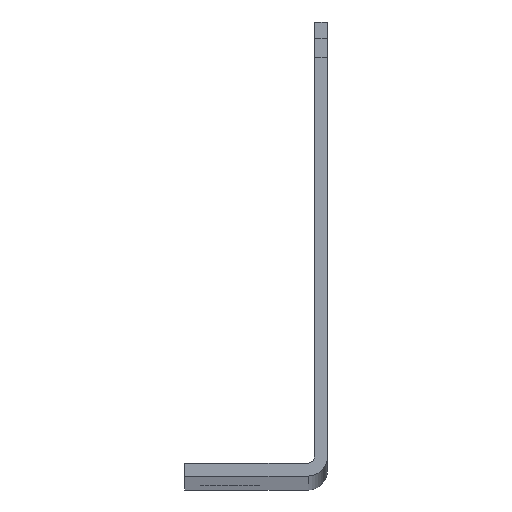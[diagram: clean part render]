
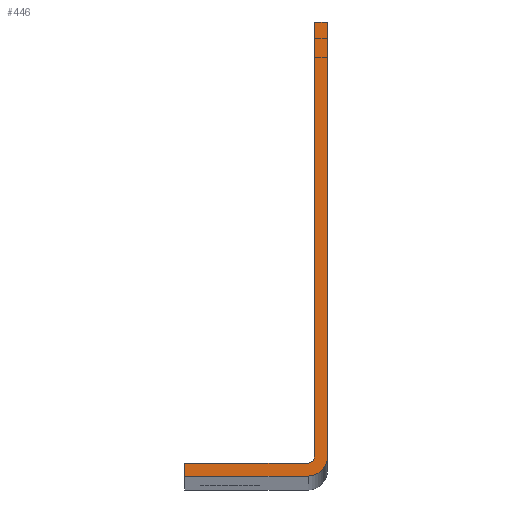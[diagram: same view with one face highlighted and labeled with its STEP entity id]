
A CAD part, top view. The second image highlights one B-rep face of the part: STEP entity #446.
In plain terms, the highlighted planar face has unit normal (0, 0, 1).
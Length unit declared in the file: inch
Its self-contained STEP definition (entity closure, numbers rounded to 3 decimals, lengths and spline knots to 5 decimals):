
#446 = ADVANCED_FACE( '', ( #1271 ), #1272, .T. );
#1271 = FACE_OUTER_BOUND( '', #2538, .T. );
#1272 = PLANE( '', #2539 );
#2538 = EDGE_LOOP( '', ( #4209, #4210, #4211, #4212, #4213, #4214, #4215, #4216 ) );
#2539 = AXIS2_PLACEMENT_3D( '', #4217, #4218, #4219 );
#4209 = ORIENTED_EDGE( '', *, *, #5905, .F. );
#4210 = ORIENTED_EDGE( '', *, *, #5943, .F. );
#4211 = ORIENTED_EDGE( '', *, *, #6315, .F. );
#4212 = ORIENTED_EDGE( '', *, *, #6303, .T. );
#4213 = ORIENTED_EDGE( '', *, *, #6120, .T. );
#4214 = ORIENTED_EDGE( '', *, *, #5869, .T. );
#4215 = ORIENTED_EDGE( '', *, *, #6222, .T. );
#4216 = ORIENTED_EDGE( '', *, *, #6316, .T. );
#4217 = CARTESIAN_POINT( '', ( 0.6875, 0.125, 38.5 ) );
#4218 = DIRECTION( '', ( 0., 0., 1. ) );
#4219 = DIRECTION( '', ( 1., 0., 0. ) );
#5869 = EDGE_CURVE( '', #6861, #6859, #6862, .F. );
#5905 = EDGE_CURVE( '', #6924, #6926, #6927, .T. );
#5943 = EDGE_CURVE( '', #6991, #6924, #6993, .T. );
#6120 = EDGE_CURVE( '', #7336, #6861, #7337, .T. );
#6222 = EDGE_CURVE( '', #6859, #7509, #7511, .T. );
#6303 = EDGE_CURVE( '', #7627, #7336, #7628, .T. );
#6315 = EDGE_CURVE( '', #7627, #6991, #7643, .T. );
#6316 = EDGE_CURVE( '', #7509, #6926, #7644, .T. );
#6859 = VERTEX_POINT( '', #8362 );
#6861 = VERTEX_POINT( '', #8365 );
#6862 = CIRCLE( '', #8366, 0.06 );
#6924 = VERTEX_POINT( '', #8440 );
#6926 = VERTEX_POINT( '', #8443 );
#6927 = LINE( '', #8444, #8445 );
#6991 = VERTEX_POINT( '', #8530 );
#6993 = CIRCLE( '', #8533, 0.185 );
#7336 = VERTEX_POINT( '', #8904 );
#7337 = LINE( '', #8905, #8906 );
#7509 = VERTEX_POINT( '', #9126 );
#7511 = LINE( '', #9129, #9130 );
#7627 = VERTEX_POINT( '', #9276 );
#7628 = LINE( '', #9277, #9278 );
#7643 = LINE( '', #9299, #9300 );
#7644 = LINE( '', #9301, #9302 );
#8362 = CARTESIAN_POINT( '', ( 0.5025, 0.125, 38.5 ) );
#8365 = CARTESIAN_POINT( '', ( 0.5625, 0.185, 38.5 ) );
#8366 = AXIS2_PLACEMENT_3D( '', #10074, #10075, #10076 );
#8440 = CARTESIAN_POINT( '', ( 0.5025, 0., 38.5 ) );
#8443 = CARTESIAN_POINT( '', ( -0.6875, 0., 38.5 ) );
#8444 = CARTESIAN_POINT( '', ( 0.6875, 0., 38.5 ) );
#8445 = VECTOR( '', #10141, 39.37008 );
#8530 = CARTESIAN_POINT( '', ( 0.6875, 0.185, 38.5 ) );
#8533 = AXIS2_PLACEMENT_3D( '', #10185, #10186, #10187 );
#8904 = CARTESIAN_POINT( '', ( 0.5625, 4.371, 38.5 ) );
#8905 = CARTESIAN_POINT( '', ( 0.5625, 0.11049, 38.5 ) );
#8906 = VECTOR( '', #10654, 39.37008 );
#9126 = CARTESIAN_POINT( '', ( -0.6875, 0.125, 38.5 ) );
#9129 = CARTESIAN_POINT( '', ( 0.6875, 0.125, 38.5 ) );
#9130 = VECTOR( '', #10821, 39.37008 );
#9276 = CARTESIAN_POINT( '', ( 0.6875, 4.371, 38.5 ) );
#9277 = CARTESIAN_POINT( '', ( 0.6875, 4.371, 38.5 ) );
#9278 = VECTOR( '', #10918, 39.37008 );
#9299 = CARTESIAN_POINT( '', ( 0.6875, 0.11049, 38.5 ) );
#9300 = VECTOR( '', #10928, 39.37008 );
#9301 = CARTESIAN_POINT( '', ( -0.6875, 0.125, 38.5 ) );
#9302 = VECTOR( '', #10929, 39.37008 );
#10074 = CARTESIAN_POINT( '', ( 0.5025, 0.185, 38.5 ) );
#10075 = DIRECTION( '', ( 0., 0., 1. ) );
#10076 = DIRECTION( '', ( 1., 0., 0. ) );
#10141 = DIRECTION( '', ( -1., 0., 0. ) );
#10185 = CARTESIAN_POINT( '', ( 0.5025, 0.185, 38.5 ) );
#10186 = DIRECTION( '', ( 0., 0., -1. ) );
#10187 = DIRECTION( '', ( 0., 1., 0. ) );
#10654 = DIRECTION( '', ( 0., -1., 0. ) );
#10821 = DIRECTION( '', ( -1., 0., 0. ) );
#10918 = DIRECTION( '', ( -1., 0., 0. ) );
#10928 = DIRECTION( '', ( 0., -1., 0. ) );
#10929 = DIRECTION( '', ( 0., -1., 0. ) );
